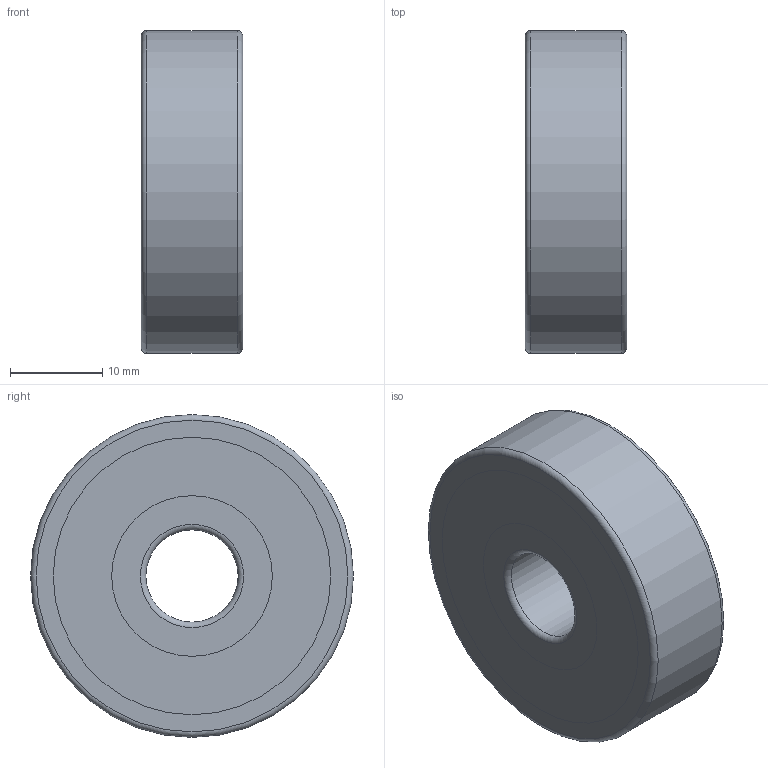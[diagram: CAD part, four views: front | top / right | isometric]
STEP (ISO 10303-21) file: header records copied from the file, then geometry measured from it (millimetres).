
FILE_DESCRIPTION(/* description */ (''),/* implementation_level */ '2;1');
FILE_NAME(/* name */ 'D:\moje\parametrické\63--\rada63---2RSR,ZR\63---2RSR\6300-2RSR.stp',/* time_stamp */ '2016-04-04T13:51:40+02:00',/* author */ ('OUBALASKO'),/* organization */ (''),/* preprocessor_version */ 'ST-DEVELOPER v15.2',/* originating_system */ 'Autodesk Inventor 2014',/* authorisation */ '');
FILE_SCHEMA (('AUTOMOTIVE_DESIGN { 1 0 10303 214 3 1 1 }'));
Length unit declared in the file: millimetre
Products named in the file (6): 6300-02-2RSR; 6300-ball; 6300-cage; 6300-01-2RSR; 6300-seal-2RSR,ZR; 6300-2RSR
Bounding box: 11 x 35 x 35 mm (x, y, z)
Volume: 7784.7 mm3; surface area: 8386.8 mm2
Topology: 14 solids, 14 shells, 104 faces, 366 edges, 240 vertices
Faces by surface type: plane 42, sphere 40, cylinder 16, torus 6
Full cylindrical faces by diameter (mm): 10 x1, 17.42 x4, 20.595 x2, 24.405 x2, 27.58 x2, 30.08 x4, 35 x1
Entity records: 2464 total; most frequent: CARTESIAN_POINT 962, DIRECTION 336, ORIENTED_EDGE 242, AXIS2_PLACEMENT_3D 168, EDGE_CURVE 121, VERTEX_POINT 90, CIRCLE 89, EDGE_LOOP 85
